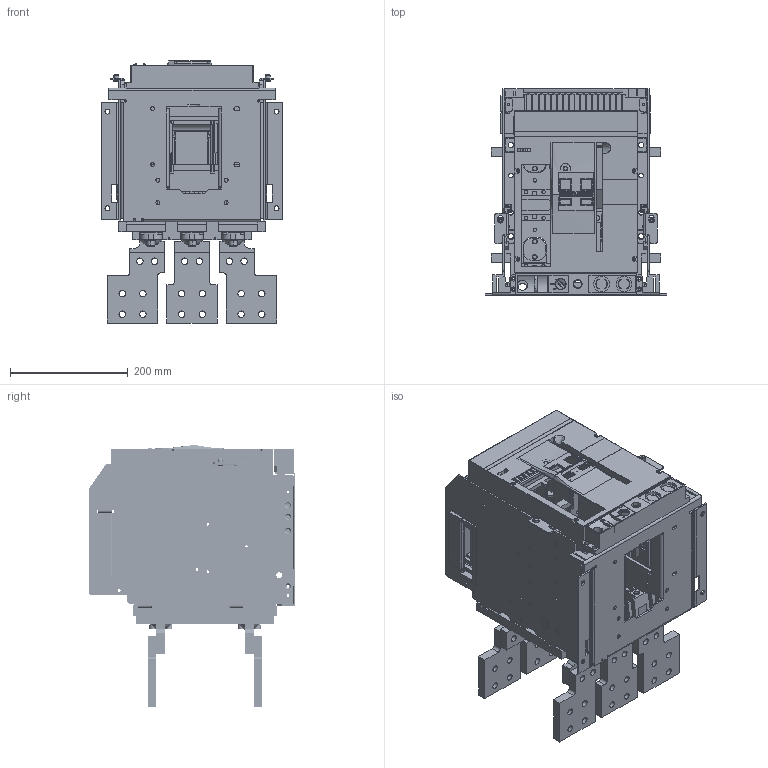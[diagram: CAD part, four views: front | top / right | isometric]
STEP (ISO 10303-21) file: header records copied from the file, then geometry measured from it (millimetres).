
FILE_DESCRIPTION((''),'2;1');
FILE_NAME('NA8-1600-1600-DO-3P_ASM','2017-01-18T',('0031'),(''),'PRO/ENGINEER BY PARAMETRIC TECHNOLOGY CORPORATION, 2010280','PRO/ENGINEER BY PARAMETRIC TECHNOLOGY CORPORATION, 2010280','');
FILE_SCHEMA(('CONFIG_CONTROL_DESIGN'));
Products named in the file (36): 8-024-504_7; 8-300-164_8; 8-141-125_2; 8-860-349_5; 8-441-081_2; 5-024-172_ASM_9_ASM; 8-050-244_10; 8-125-057_4; 8-123-120_2; 8-261-001_8; 8-125-001_6; 8-210-176_2; 5-124-010_ASM_3_ASM; 5-050-095_ASM_15_ASM; 8-050-243_9; 8-261-002_6; 8-125-002_7; 5-124-011_ASM_3_ASM; 5-050-096_ASM_9_ASM; 5-020-048_11; 8-580-199_5; 8-580-200_2; 5-020-049-1_ASM_5_ASM; 8-300-166_12; 8-024-128_12; 5-574-091_ASM_5_ASM; 8-015-021_13; 8ZTD-043-780_4; 8ZTD-043-781_2; GBT93-8_8; GBT70_1-M8X20_17; 8-300-162-2_3; 8-580-204_2; 8-580-205_1; NA8-1600-DO-3P_ASM_4_ASM; NA8-1600-1600-DO-3P_ASM
Assembly tree (68 placements, depth 5):
  NA8-1600-1600-DO-3P_ASM
    NA8-1600-DO-3P_ASM_4_ASM
      5-024-172_ASM_9_ASM
        8-024-504_7
        8-300-164_8
        8-141-125_2
        8-860-349_5
        8-441-081_2
      5-050-095_ASM_15_ASM
        8-050-244_10
        8-125-057_4
        8-123-120_2
        5-124-010_ASM_3_ASM
          8-261-001_8
          8-125-001_6
          8-210-176_2
      5-050-096_ASM_9_ASM
        8-050-243_9
        8-125-057_4
        8-123-120_2
        5-124-011_ASM_3_ASM
          8-261-002_6
          8-125-002_7
          8-210-176_2
      5-020-049-1_ASM_5_ASM
        5-020-048_11
        8-580-199_5  x2
        8-580-200_2  x4
      8-300-166_12
      5-574-091_ASM_5_ASM
        8-024-128_12
      8-015-021_13
      8ZTD-043-780_4
      8ZTD-043-781_2
      GBT93-8_8  x12
      GBT70_1-M8X20_17  x12
      8-300-162-2_3
      8-580-204_2  x2
      8-580-205_1  x4
Bounding box: 308 x 351 x 445 mm (x, y, z)
Volume: 4511390 mm3; surface area: 1921365.5 mm2
Topology: 60 solids, 73 shells, 4229 faces, 11628 edges, 7628 vertices
Faces by surface type: plane 2717, cylinder 1275, cone 170, bspline 36, torus 30, extrusion 1
Entity records: 113440 total; most frequent: CARTESIAN_POINT 21396, ORIENTED_EDGE 19240, DIRECTION 18777, EDGE_CURVE 9625, VECTOR 7199, LINE 7198, VERTEX_POINT 6383, AXIS2_PLACEMENT_3D 5789
